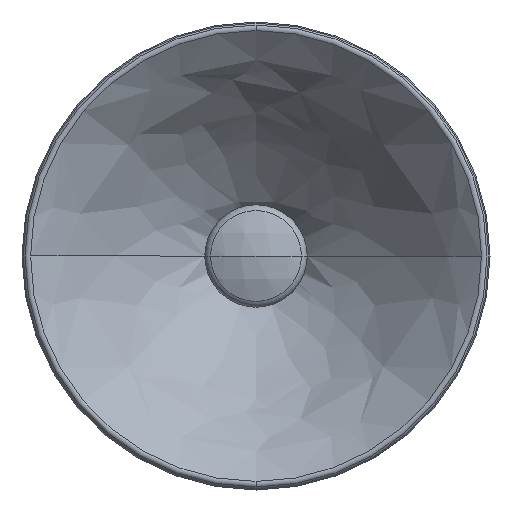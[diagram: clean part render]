
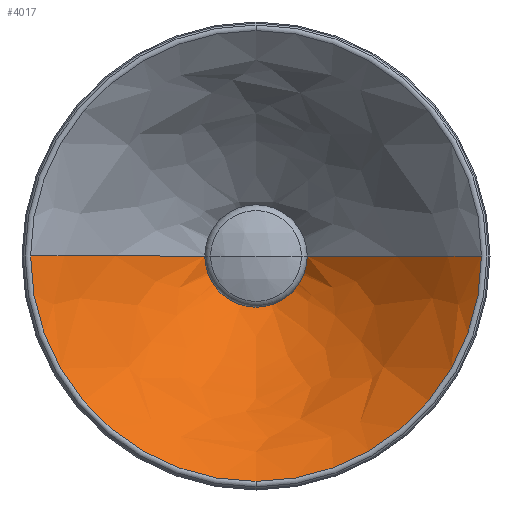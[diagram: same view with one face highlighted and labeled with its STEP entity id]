
A CAD part, front view. The second image highlights one B-rep face of the part: STEP entity #4017.
In plain terms, the highlighted free-form (B-spline) face has degree [3, 3] with [5, 4] control points.
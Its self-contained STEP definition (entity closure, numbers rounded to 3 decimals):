
#170 = EDGE_CURVE ( 'NONE', #4496, #19861, #1426, .T. ) ;
#636 = CARTESIAN_POINT ( 'NONE',  ( 0., -4.172, -162.309 ) ) ;
#920 = CARTESIAN_POINT ( 'NONE',  ( -36.388, 110.897, 0. ) ) ;
#1021 = ORIENTED_EDGE ( 'NONE', *, *, #18462, .T. ) ;
#1290 = CARTESIAN_POINT ( 'NONE',  ( 93.589, 74.525, 0. ) ) ;
#1426 = CIRCLE ( 'NONE', #13364, 18.617 ) ;
#1519 = VERTEX_POINT ( 'NONE', #636 ) ;
#1575 = CARTESIAN_POINT ( 'NONE',  ( 18.617, 134.414, 0. ) ) ;
#1884 = CARTESIAN_POINT ( 'NONE',  ( 0., 134.414, 0. ) ) ;
#2838 = EDGE_CURVE ( 'NONE', #4496, #6514, #4735, .T. ) ;
#3074 = CARTESIAN_POINT ( 'NONE',  ( 18.617, 134.414, -37.235 ) ) ;
#3347 = CARTESIAN_POINT ( 'NONE',  ( -93.589, 74.525, -187.178 ) ) ;
#3925 = ORIENTED_EDGE ( 'NONE', *, *, #2838, .F. ) ;
#4017 = ADVANCED_FACE ( 'NONE', ( #5239 ), #28050, .T. ) ;
#4496 = VERTEX_POINT ( 'NONE', #8559 ) ;
#4635 = DIRECTION ( 'NONE',  ( 0., 0., -1. ) ) ;
#4735 = B_SPLINE_CURVE_WITH_KNOTS ( 'NONE', 3,
 ( #1575, #14363, #1290, #27598, #10206 ),
 .UNSPECIFIED., .F., .F.,
 ( 4, 1, 4 ),
 ( 0.013, 0.439, 0.987 ),
 .UNSPECIFIED. ) ;
#5239 = FACE_OUTER_BOUND ( 'NONE', #6379, .T. ) ;
#5523 = CARTESIAN_POINT ( 'NONE',  ( -162.309, -4.172, -324.618 ) ) ;
#5642 = CARTESIAN_POINT ( 'NONE',  ( 0., -4.172, 0. ) ) ;
#5799 = CARTESIAN_POINT ( 'NONE',  ( 162.309, -4.172, 0. ) ) ;
#6356 = DIRECTION ( 'NONE',  ( 0., 0., -1. ) ) ;
#6357 = CARTESIAN_POINT ( 'NONE',  ( -93.589, 74.525, 0. ) ) ;
#6379 = EDGE_LOOP ( 'NONE', ( #7514, #14503, #20304, #1021, #3925, #12777 ) ) ;
#6514 = VERTEX_POINT ( 'NONE', #15504 ) ;
#7514 = ORIENTED_EDGE ( 'NONE', *, *, #8320, .T. ) ;
#7809 = EDGE_CURVE ( 'NONE', #16389, #18817, #8870, .T. ) ;
#7959 = CARTESIAN_POINT ( 'NONE',  ( 36.388, 110.897, 0. ) ) ;
#8320 = EDGE_CURVE ( 'NONE', #19861, #16389, #15991, .T. ) ;
#8559 = CARTESIAN_POINT ( 'NONE',  ( 18.617, 134.414, 0. ) ) ;
#8870 = B_SPLINE_CURVE_WITH_KNOTS ( 'NONE', 3,
 ( #16829, #26020, #6357, #23869, #25600 ),
 .UNSPECIFIED., .F., .F.,
 ( 4, 1, 4 ),
 ( 0.013, 0.439, 0.987 ),
 .UNSPECIFIED. ) ;
#10206 = CARTESIAN_POINT ( 'NONE',  ( 162.309, -4.172, 0. ) ) ;
#10247 = CARTESIAN_POINT ( 'NONE',  ( -36.388, 110.897, -72.776 ) ) ;
#10646 = CARTESIAN_POINT ( 'NONE',  ( -162.309, -4.172, 0. ) ) ;
#10990 = CIRCLE ( 'NONE', #15573, 162.309 ) ;
#11101 = DIRECTION ( 'NONE',  ( 0., -1., 0. ) ) ;
#11185 = DIRECTION ( 'NONE',  ( 0., 1., 0. ) ) ;
#11835 = CARTESIAN_POINT ( 'NONE',  ( -18.617, 134.414, 0. ) ) ;
#11963 = DIRECTION ( 'NONE',  ( 0., -1., 0. ) ) ;
#12199 = CIRCLE ( 'NONE', #27377, 162.309 ) ;
#12651 = CARTESIAN_POINT ( 'NONE',  ( -18.617, 134.414, 0. ) ) ;
#12674 = CARTESIAN_POINT ( 'NONE',  ( -132.167, 18.552, 0. ) ) ;
#12777 = ORIENTED_EDGE ( 'NONE', *, *, #170, .T. ) ;
#13364 = AXIS2_PLACEMENT_3D ( 'NONE', #1884, #26018, #6356 ) ;
#13384 = CARTESIAN_POINT ( 'NONE',  ( 0., -4.172, 0. ) ) ;
#14363 = CARTESIAN_POINT ( 'NONE',  ( 36.388, 110.897, 0. ) ) ;
#14405 = CARTESIAN_POINT ( 'NONE',  ( 132.167, 18.552, -264.335 ) ) ;
#14503 = ORIENTED_EDGE ( 'NONE', *, *, #7809, .T. ) ;
#15504 = CARTESIAN_POINT ( 'NONE',  ( 162.309, -4.172, 0. ) ) ;
#15573 = AXIS2_PLACEMENT_3D ( 'NONE', #13384, #11101, #4635 ) ;
#15991 = CIRCLE ( 'NONE', #17345, 18.617 ) ;
#16389 = VERTEX_POINT ( 'NONE', #12651 ) ;
#16559 = CARTESIAN_POINT ( 'NONE',  ( 132.167, 18.552, 0. ) ) ;
#16698 = CARTESIAN_POINT ( 'NONE',  ( 93.589, 74.525, 0. ) ) ;
#16829 = CARTESIAN_POINT ( 'NONE',  ( -18.617, 134.414, 0. ) ) ;
#17345 = AXIS2_PLACEMENT_3D ( 'NONE', #22100, #11185, #19953 ) ;
#18462 = EDGE_CURVE ( 'NONE', #1519, #6514, #12199, .T. ) ;
#18711 = CARTESIAN_POINT ( 'NONE',  ( 36.388, 110.897, -72.776 ) ) ;
#18817 = VERTEX_POINT ( 'NONE', #10646 ) ;
#19289 = CARTESIAN_POINT ( 'NONE',  ( -132.167, 18.552, -264.335 ) ) ;
#19861 = VERTEX_POINT ( 'NONE', #26940 ) ;
#19953 = DIRECTION ( 'NONE',  ( 0., 0., -1. ) ) ;
#20304 = ORIENTED_EDGE ( 'NONE', *, *, #27421, .T. ) ;
#20613 = CARTESIAN_POINT ( 'NONE',  ( 18.617, 134.414, 0. ) ) ;
#21455 = CARTESIAN_POINT ( 'NONE',  ( 162.309, -4.172, -324.618 ) ) ;
#22100 = CARTESIAN_POINT ( 'NONE',  ( 0., 134.414, 0. ) ) ;
#22764 = CARTESIAN_POINT ( 'NONE',  ( -18.617, 134.414, -37.235 ) ) ;
#23869 = CARTESIAN_POINT ( 'NONE',  ( -132.167, 18.552, 0. ) ) ;
#25046 = DIRECTION ( 'NONE',  ( 0., 0., -1. ) ) ;
#25332 = CARTESIAN_POINT ( 'NONE',  ( -93.589, 74.525, 0. ) ) ;
#25475 = CARTESIAN_POINT ( 'NONE',  ( 93.589, 74.525, -187.178 ) ) ;
#25600 = CARTESIAN_POINT ( 'NONE',  ( -162.309, -4.172, 0. ) ) ;
#26018 = DIRECTION ( 'NONE',  ( 0., 1., 0. ) ) ;
#26020 = CARTESIAN_POINT ( 'NONE',  ( -36.388, 110.897, 0. ) ) ;
#26940 = CARTESIAN_POINT ( 'NONE',  ( 0., 134.414, -18.617 ) ) ;
#27377 = AXIS2_PLACEMENT_3D ( 'NONE', #5642, #11963, #25046 ) ;
#27421 = EDGE_CURVE ( 'NONE', #18817, #1519, #10990, .T. ) ;
#27598 = CARTESIAN_POINT ( 'NONE',  ( 132.167, 18.552, 0. ) ) ;
#27781 = CARTESIAN_POINT ( 'NONE',  ( -162.309, -4.172, 0. ) ) ;
#28050 =( BOUNDED_SURFACE ( )  B_SPLINE_SURFACE ( 3, 3, ( 
 ( #11835, #22764, #3074, #20613 ),
 ( #920, #10247, #18711, #7959 ),
 ( #25332, #3347, #25475, #16698 ),
 ( #12674, #19289, #14405, #16559 ),
 ( #27781, #5523, #21455, #5799 ) ),
 .UNSPECIFIED., .F., .F., .T. ) 
 B_SPLINE_SURFACE_WITH_KNOTS ( ( 4, 1, 4 ),
 ( 4, 4 ),
 ( 0.013, 0.439, 0.987 ),
 ( 0., 1. ),
 .UNSPECIFIED. ) 
 GEOMETRIC_REPRESENTATION_ITEM ( )  RATIONAL_B_SPLINE_SURFACE ( (
 ( 1., 0.333, 0.333, 1.),
 ( 1., 0.333, 0.333, 1.),
 ( 1., 0.333, 0.333, 1.),
 ( 1., 0.333, 0.333, 1.),
 ( 1., 0.333, 0.333, 1.) ) ) 
 REPRESENTATION_ITEM ( '' )  SURFACE ( )  );
